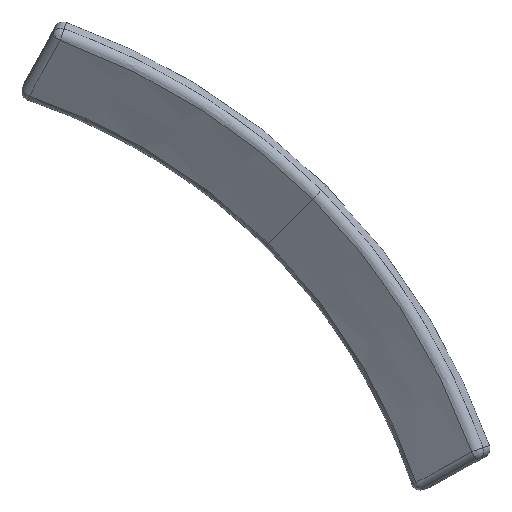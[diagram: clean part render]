
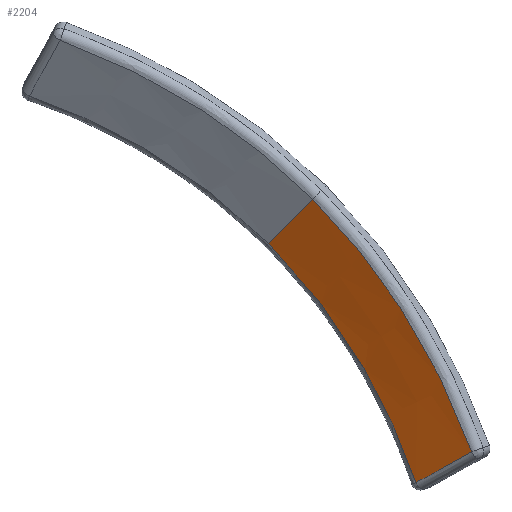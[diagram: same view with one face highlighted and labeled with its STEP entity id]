
A CAD part, top view. The second image highlights one B-rep face of the part: STEP entity #2204.
In plain terms, the highlighted free-form (B-spline) face has degree [3, 3] with [7, 7] control points.
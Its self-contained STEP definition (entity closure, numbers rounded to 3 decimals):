
#655=CARTESIAN_POINT('',(1195.063,-190.541,-14.26));
#656=VERTEX_POINT('',#655);
#667=CARTESIAN_POINT('',(1224.771,-160.833,9.996));
#668=VERTEX_POINT('',#667);
#669=CARTESIAN_POINT('',(1224.771,-160.833,9.996));
#670=CARTESIAN_POINT('',(1195.063,-190.541,-14.26));
#671=QUASI_UNIFORM_CURVE('',1,(#669,#670),.UNSPECIFIED.,.F.,.U.);
#672=EDGE_CURVE('',#668,#656,#671,.T.);
#1862=CARTESIAN_POINT('',(1293.874,-350.802,-14.26));
#1863=VERTEX_POINT('',#1862);
#2033=CARTESIAN_POINT('',(1331.176,-330.237,9.996));
#2034=VERTEX_POINT('',#2033);
#2117=CARTESIAN_POINT('',(1331.176,-330.237,9.996));
#2118=CARTESIAN_POINT('',(1324.961,-333.665,5.951));
#2119=CARTESIAN_POINT('',(1312.531,-340.52,-2.14));
#2120=CARTESIAN_POINT('',(1300.093,-347.374,-10.22));
#2121=CARTESIAN_POINT('',(1293.874,-350.802,-14.26));
#2122=B_SPLINE_CURVE_WITH_KNOTS('',3,(#2117,#2118,#2119,#2120,#2121),.UNSPECIFIED.,.F.,.U.,(4,1,4),(0.,24.51,49.021),.UNSPECIFIED.);
#2123=EDGE_CURVE('',#2034,#1863,#2122,.T.);
#2130=CARTESIAN_POINT('',(1333.609,-337.154,9.996));
#2131=CARTESIAN_POINT('',(1327.847,-320.377,9.996));
#2132=CARTESIAN_POINT('',(1314.644,-287.701,9.996));
#2133=CARTESIAN_POINT('',(1289.609,-241.38,9.996));
#2134=CARTESIAN_POINT('',(1259.764,-198.692,9.996));
#2135=CARTESIAN_POINT('',(1236.781,-172.843,9.996));
#2136=CARTESIAN_POINT('',(1224.63,-160.692,9.996));
#2137=CARTESIAN_POINT('',(1330.299,-338.291,7.976));
#2138=CARTESIAN_POINT('',(1324.579,-321.635,7.976));
#2139=CARTESIAN_POINT('',(1311.469,-289.189,7.976));
#2140=CARTESIAN_POINT('',(1286.623,-243.22,7.976));
#2141=CARTESIAN_POINT('',(1257.01,-200.864,7.976));
#2142=CARTESIAN_POINT('',(1234.21,-175.222,7.976));
#2143=CARTESIAN_POINT('',(1222.155,-163.166,7.976));
#2144=CARTESIAN_POINT('',(1323.677,-340.566,3.933));
#2145=CARTESIAN_POINT('',(1318.039,-324.151,3.933));
#2146=CARTESIAN_POINT('',(1305.115,-292.166,3.933));
#2147=CARTESIAN_POINT('',(1280.649,-246.902,3.933));
#2148=CARTESIAN_POINT('',(1251.5,-205.211,3.933));
#2149=CARTESIAN_POINT('',(1229.066,-179.98,3.933));
#2150=CARTESIAN_POINT('',(1217.203,-168.118,3.933));
#2151=CARTESIAN_POINT('',(1313.741,-343.978,-2.132));
#2152=CARTESIAN_POINT('',(1308.228,-327.925,-2.132));
#2153=CARTESIAN_POINT('',(1295.584,-296.633,-2.132));
#2154=CARTESIAN_POINT('',(1271.685,-252.425,-2.132));
#2155=CARTESIAN_POINT('',(1243.234,-211.733,-2.132));
#2156=CARTESIAN_POINT('',(1221.349,-187.12,-2.132));
#2157=CARTESIAN_POINT('',(1209.775,-175.546,-2.132));
#2158=CARTESIAN_POINT('',(1303.806,-347.39,-8.197));
#2159=CARTESIAN_POINT('',(1298.417,-331.7,-8.197));
#2160=CARTESIAN_POINT('',(1286.052,-301.1,-8.197));
#2161=CARTESIAN_POINT('',(1262.722,-257.948,-8.197));
#2162=CARTESIAN_POINT('',(1234.968,-218.254,-8.197));
#2163=CARTESIAN_POINT('',(1213.632,-194.259,-8.197));
#2164=CARTESIAN_POINT('',(1202.347,-182.974,-8.197));
#2165=CARTESIAN_POINT('',(1297.184,-349.665,-12.24));
#2166=CARTESIAN_POINT('',(1291.878,-334.216,-12.24));
#2167=CARTESIAN_POINT('',(1279.699,-304.078,-12.24));
#2168=CARTESIAN_POINT('',(1256.747,-261.629,-12.24));
#2169=CARTESIAN_POINT('',(1229.458,-222.601,-12.24));
#2170=CARTESIAN_POINT('',(1208.488,-199.018,-12.24));
#2171=CARTESIAN_POINT('',(1197.396,-187.925,-12.24));
#2172=CARTESIAN_POINT('',(1293.874,-350.802,-14.26));
#2173=CARTESIAN_POINT('',(1288.609,-335.473,-14.26));
#2174=CARTESIAN_POINT('',(1276.524,-305.566,-14.26));
#2175=CARTESIAN_POINT('',(1253.762,-263.469,-14.26));
#2176=CARTESIAN_POINT('',(1226.705,-224.774,-14.26));
#2177=CARTESIAN_POINT('',(1205.917,-201.396,-14.26));
#2178=CARTESIAN_POINT('',(1194.921,-190.399,-14.26));
#2179=B_SPLINE_SURFACE_WITH_KNOTS('',3,3,((#2130,#2137,#2144,#2151,#2158,#2165,#2172),(#2131,#2138,#2145,#2152,#2159,#2166,#2173),(#2132,#2139,#2146,#2153,#2160,#2167,#2174),(#2133,#2140,#2147,#2154,#2161,#2168,#2175),(#2134,#2141,#2148,#2155,#2162,#2169,#2176),(#2135,#2142,#2149,#2156,#2163,#2170,#2177),(#2136,#2143,#2150,#2157,#2164,#2171,#2178)),.UNSPECIFIED.,.F.,.F.,.U.,(4,1,1,1,4),(4,1,1,1,4),(0.111,51.03,101.123,150.563,199.666),(0.011,12.134,24.268,36.401,48.524),.UNSPECIFIED.);
#2180=CARTESIAN_POINT('',(1331.176,-330.237,9.996));
#2181=CARTESIAN_POINT('',(1325.995,-315.846,9.996));
#2182=CARTESIAN_POINT('',(1313.476,-285.541,9.996));
#2183=CARTESIAN_POINT('',(1289.609,-241.38,9.996));
#2184=CARTESIAN_POINT('',(1259.802,-198.746,9.996));
#2185=CARTESIAN_POINT('',(1236.869,-172.943,9.996));
#2186=CARTESIAN_POINT('',(1224.771,-160.833,9.996));
#2187=B_SPLINE_CURVE_WITH_KNOTS('',3,(#2180,#2181,#2182,#2183,#2184,#2185,#2186),.UNSPECIFIED.,.F.,.U.,(4,1,1,1,4),(7.127,51.03,101.123,150.563,199.476),.UNSPECIFIED.);
#2188=EDGE_CURVE('',#2034,#668,#2187,.T.);
#2189=ORIENTED_EDGE('',*,*,#2188,.T.);
#2190=ORIENTED_EDGE('',*,*,#672,.T.);
#2191=CARTESIAN_POINT('',(1195.063,-190.541,-14.26));
#2192=CARTESIAN_POINT('',(1206.006,-201.496,-14.26));
#2193=CARTESIAN_POINT('',(1226.743,-224.829,-14.26));
#2194=CARTESIAN_POINT('',(1253.762,-263.469,-14.26));
#2195=CARTESIAN_POINT('',(1276.524,-305.566,-14.26));
#2196=CARTESIAN_POINT('',(1288.609,-335.473,-14.26));
#2197=CARTESIAN_POINT('',(1293.874,-350.802,-14.26));
#2198=B_SPLINE_CURVE_WITH_KNOTS('',3,(#2191,#2192,#2193,#2194,#2195,#2196,#2197),.UNSPECIFIED.,.F.,.U.,(4,1,1,1,4),(0.322,49.214,98.654,148.747,199.666),.UNSPECIFIED.);
#2199=EDGE_CURVE('',#656,#1863,#2198,.T.);
#2200=ORIENTED_EDGE('',*,*,#2199,.T.);
#2201=ORIENTED_EDGE('',*,*,#2123,.F.);
#2202=EDGE_LOOP('',(#2189,#2190,#2200,#2201));
#2203=FACE_OUTER_BOUND('',#2202,.T.);
#2204=ADVANCED_FACE('',(#2203),#2179,.T.);
